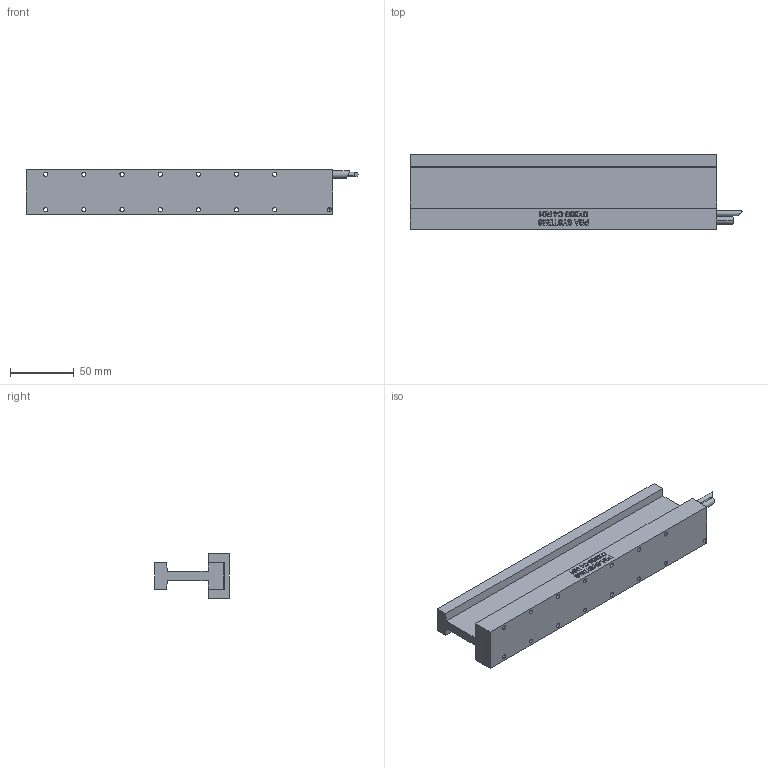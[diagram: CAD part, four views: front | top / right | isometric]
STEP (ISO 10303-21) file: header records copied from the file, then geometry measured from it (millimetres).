
FILE_DESCRIPTION (( 'STEP AP203' ), '1' );
FILE_NAME ('DX30B-C4-000.STEP', '2015-05-28T01:59:43', ( 'PBAsystems' ), ( '' ), 'SwSTEP 2.0', 'SolidWorks 2013', '' );
FILE_SCHEMA (( 'CONFIG_CONTROL_DESIGN' ));
Length unit declared in the file: millimetre
Products named in the file (5): DX30B-CX-002_C4; CBL_MTR_PWR_SS_7C2C_SA (#2936-1); CBL_MTR_HALL_SS_5C_SA (#2935-1); DX30B-C4-001_CUSTOMER C4; DX30B-C4-000
Assembly tree (4 placements, depth 2):
  DX30B-C4-000
    DX30B-CX-002_C4
    CBL_MTR_PWR_SS_7C2C_SA (#2936-1)
    CBL_MTR_HALL_SS_5C_SA (#2935-1)
    DX30B-C4-001_CUSTOMER C4
Bounding box: 261 x 58.8 x 35 mm (x, y, z)
Volume: 239525.3 mm3; surface area: 78373.7 mm2
Topology: 4 solids, 4 shells, 694 faces, 1861 edges, 1239 vertices
Faces by surface type: plane 377, bspline 278, cylinder 37, cone 2
Entity records: 36536 total; most frequent: CARTESIAN_POINT 20437, ORIENTED_EDGE 3718, DIRECTION 2219, EDGE_CURVE 1859, VERTEX_POINT 1239, LINE 1233, VECTOR 1233, EDGE_LOOP 788
